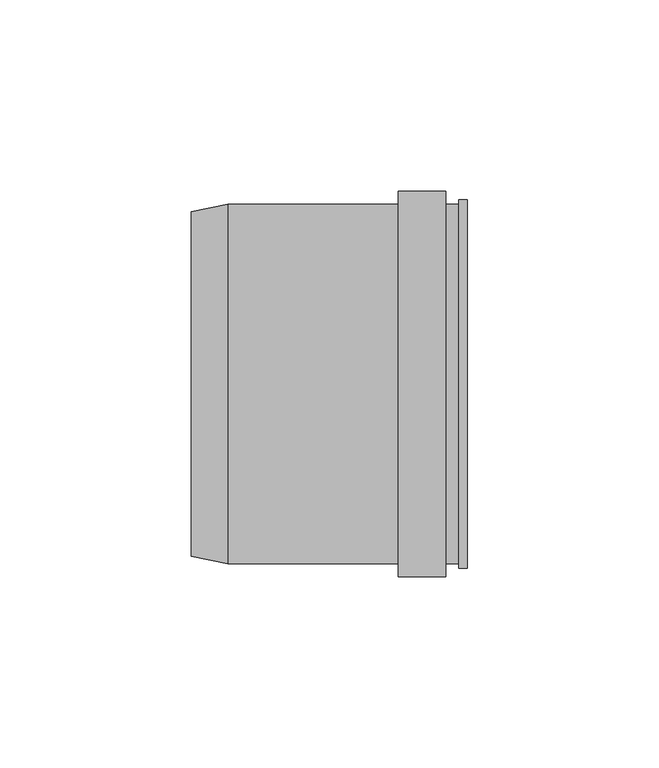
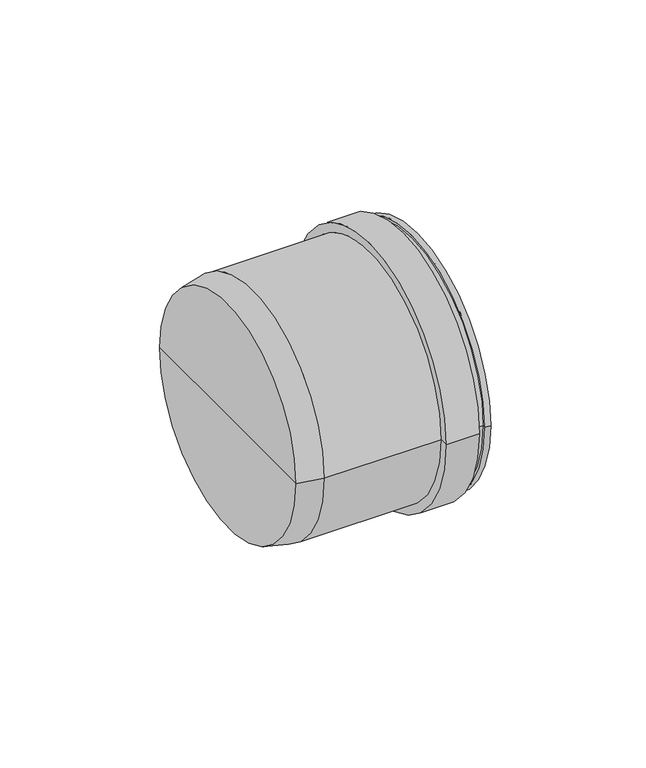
"""IFC4 building model written with IfcOpenShell, lengths in millimetres: pipe fitting geometry, pf_HTM_zatka : pf_HTM_zatka."""

from ifc_helpers import new_model, si_unit, frame, origin, place, context, project, spatial, polyline, circle_curve, source, transform, mapped, element, save
from ifc_brep_helpers import plane_surface, cylinder_surface, revolved_surface, advanced_brep


def pipe_fitting_b7105bf4(model_context):
    return source(origin(), model_context, "Body", "AdvancedBrep", [
        advanced_brep(
        [(-70.0, -45.0, 0.0), (-70.0, 45.0, 0.0), (-60.5, 47.0, 0.0), (-60.5, -47.0, 0.0), (-70.0, 0.0, 0.0), (0.0, -47.0, 0.0), (0.0, 47.0, 0.0), (0.0, 0.0, 0.0), (-3.4, -47.0, 0.0), (-3.4, 47.0, 0.0), (-3.4, -50.4, 0.0), (-3.4, 50.4, 0.0), (-15.9, -50.4, 0.0), (-15.9, 50.4, 0.0), (-15.9, -47.0, 0.0), (-15.9, 47.0, 0.0)],
        [
            (0, 1, circle_curve(frame((-70.0, 0.0, 0.0), z_axis=(1.0, 0.0, 0.0), x_axis=(0.0, 1.0, 0.0)), 45.0)),
            (1, 2),
            (2, 3, circle_curve(frame((-60.5, 0.0, 0.0), z_axis=(-1.0, 0.0, 0.0), x_axis=(0.0, 1.0, 0.0)), 47.0)),
            (3, 0),
            (1, 0, circle_curve(frame((-70.0, 0.0, 0.0), z_axis=(1.0, 0.0, 0.0), x_axis=(0.0, 1.0, 0.0)), 45.0)),
            (3, 2, circle_curve(frame((-60.5, 0.0, 0.0), z_axis=(-1.0, 0.0, 0.0), x_axis=(0.0, 1.0, 0.0)), 47.0)),
            (4, 1),
            (0, 4),
            (5, 6, circle_curve(frame((0.0, 0.0, 0.0), z_axis=(1.0, 0.0, 0.0), x_axis=(0.0, 1.0, 0.0)), 47.0)),
            (6, 7),
            (7, 5),
            (6, 5, circle_curve(frame((0.0, 0.0, 0.0), z_axis=(1.0, 0.0, 0.0), x_axis=(0.0, 1.0, 0.0)), 47.0)),
            (8, 9, circle_curve(frame((-3.4, 0.0, 0.0), z_axis=(1.0, 0.0, 0.0), x_axis=(0.0, 1.0, 0.0)), 47.0)),
            (9, 6),
            (5, 8),
            (9, 8, circle_curve(frame((-3.4, 0.0, 0.0), z_axis=(1.0, 0.0, 0.0), x_axis=(0.0, 1.0, 0.0)), 47.0)),
            (10, 11, circle_curve(frame((-3.4, 0.0, 0.0), z_axis=(1.0, 0.0, 0.0), x_axis=(0.0, 1.0, 0.0)), 50.4)),
            (11, 9),
            (8, 10),
            (11, 10, circle_curve(frame((-3.4, 0.0, 0.0), z_axis=(1.0, 0.0, 0.0), x_axis=(0.0, 1.0, 0.0)), 50.4)),
            (12, 13, circle_curve(frame((-15.9, 0.0, 0.0), z_axis=(1.0, 0.0, 0.0), x_axis=(0.0, 1.0, 0.0)), 50.4)),
            (13, 11),
            (10, 12),
            (13, 12, circle_curve(frame((-15.9, 0.0, 0.0), z_axis=(1.0, 0.0, 0.0), x_axis=(0.0, 1.0, 0.0)), 50.4)),
            (14, 15, circle_curve(frame((-15.9, 0.0, 0.0), z_axis=(1.0, 0.0, 0.0), x_axis=(0.0, 1.0, 0.0)), 47.0)),
            (15, 13),
            (12, 14),
            (15, 14, circle_curve(frame((-15.9, 0.0, 0.0), z_axis=(1.0, 0.0, 0.0), x_axis=(0.0, 1.0, 0.0)), 47.0)),
            (2, 15),
            (14, 3),
        ],
        [
            revolved_surface(polyline([(-60.5, 47.0, 0.0), (-70.0, 45.0, 0.0)]), (-70.0, 0.0, 0.0), (-1.0, 0.0, 0.0)),
            plane_surface(frame((-70.0, 0.0, 0.0), z_axis=(-1.0, 0.0, 0.0), x_axis=(0.0, 1.0, 0.0))),
            plane_surface(frame((0.0, 0.0, 0.0), z_axis=(1.0, 0.0, 0.0), x_axis=(0.0, 1.0, 0.0))),
            cylinder_surface(frame((-70.0, 0.0, 0.0), z_axis=(-1.0, 0.0, 0.0), x_axis=(0.0, 1.0, 0.0)), 47.0),
            plane_surface(frame((-3.4, 0.0, 0.0), z_axis=(1.0, 0.0, 0.0), x_axis=(0.0, 1.0, 0.0))),
            cylinder_surface(frame((-70.0, 0.0, 0.0), z_axis=(-1.0, 0.0, 0.0), x_axis=(0.0, 1.0, 0.0)), 50.4),
            plane_surface(frame((-15.9, 0.0, 0.0), z_axis=(-1.0, 0.0, 0.0), x_axis=(0.0, 1.0, 0.0))),
        ],
        [
            (0, [[1, 2, 3, 4]]),
            (0, [[5, -4, 6, -2]]),
            (1, [[7, -1, 8]]),
            (1, [[-8, -5, -7]]),
            (2, [[9, 10, 11]]),
            (2, [[12, -11, -10]]),
            (3, [[13, 14, -9, 15]]),
            (3, [[16, -15, -12, -14]]),
            (4, [[17, 18, -13, 19]]),
            (4, [[20, -19, -16, -18]]),
            (5, [[21, 22, -17, 23]]),
            (5, [[24, -23, -20, -22]]),
            (6, [[25, 26, -21, 27]]),
            (6, [[28, -27, -24, -26]]),
            (3, [[-3, 29, -25, 30]]),
            (3, [[-6, -30, -28, -29]]),
        ],
    ),
        advanced_brep(
        [(-43.0, 0.0, 0.0), (-43.0, 45.0, 0.0), (-43.0, -45.0, 0.0), (2.2, -48.2, 0.0), (2.2, 48.2, 0.0), (2.2, 0.0, 0.0), (0.0, -48.2, 0.0), (0.0, 48.2, 0.0), (0.0, -46.0, 0.0), (0.0, 46.0, 0.0), (-39.0, -46.0, 0.0), (-39.0, 46.0, 0.0)],
        [
            (0, 1),
            (1, 2, circle_curve(frame((-43.0, 0.0, 0.0), z_axis=(-1.0, 0.0, 0.0), x_axis=(0.0, 1.0, 0.0)), 45.0)),
            (2, 0),
            (2, 1, circle_curve(frame((-43.0, 0.0, 0.0), z_axis=(-1.0, 0.0, 0.0), x_axis=(0.0, 1.0, 0.0)), 45.0)),
            (3, 4, circle_curve(frame((2.2, 0.0, 0.0), z_axis=(1.0, 0.0, 0.0), x_axis=(0.0, 1.0, 0.0)), 48.2)),
            (4, 5),
            (5, 3),
            (4, 3, circle_curve(frame((2.2, 0.0, 0.0), z_axis=(1.0, 0.0, 0.0), x_axis=(0.0, 1.0, 0.0)), 48.2)),
            (6, 7, circle_curve(frame((0.0, 0.0, 0.0), z_axis=(1.0, 0.0, 0.0), x_axis=(0.0, 1.0, 0.0)), 48.2)),
            (7, 4),
            (3, 6),
            (7, 6, circle_curve(frame((0.0, 0.0, 0.0), z_axis=(1.0, 0.0, 0.0), x_axis=(0.0, 1.0, 0.0)), 48.2)),
            (8, 9, circle_curve(frame((0.0, 0.0, 0.0), z_axis=(1.0, 0.0, 0.0), x_axis=(0.0, 1.0, 0.0)), 46.0)),
            (9, 7),
            (6, 8),
            (9, 8, circle_curve(frame((0.0, 0.0, 0.0), z_axis=(1.0, 0.0, 0.0), x_axis=(0.0, 1.0, 0.0)), 46.0)),
            (10, 11, circle_curve(frame((-39.0, 0.0, 0.0), z_axis=(1.0, 0.0, 0.0), x_axis=(0.0, 1.0, 0.0)), 46.0)),
            (11, 9),
            (8, 10),
            (11, 10, circle_curve(frame((-39.0, 0.0, 0.0), z_axis=(1.0, 0.0, 0.0), x_axis=(0.0, 1.0, 0.0)), 46.0)),
            (1, 11),
            (10, 2),
        ],
        [
            plane_surface(frame((-43.0, 0.0, 0.0), z_axis=(-1.0, 0.0, 0.0), x_axis=(0.0, 1.0, 0.0))),
            plane_surface(frame((2.2, 0.0, 0.0), z_axis=(1.0, 0.0, 0.0), x_axis=(0.0, 1.0, 0.0))),
            cylinder_surface(frame((-42.0241529, 0.0, 0.0), z_axis=(-1.0, 0.0, 0.0), x_axis=(0.0, 1.0, 0.0)), 48.2),
            plane_surface(frame((0.0, 0.0, 0.0), z_axis=(-1.0, 0.0, 0.0), x_axis=(0.0, 1.0, 0.0))),
            cylinder_surface(frame((-42.0241529, 0.0, 0.0), z_axis=(-1.0, 0.0, 0.0), x_axis=(0.0, 1.0, 0.0)), 46.0),
            revolved_surface(polyline([(-39.0, 46.0, 0.0), (-43.0, 45.0, 0.0)]), (-42.0241529, 0.0, 0.0), (-1.0, 0.0, 0.0)),
        ],
        [
            (0, [[1, 2, 3]]),
            (0, [[-3, 4, -1]]),
            (1, [[5, 6, 7]]),
            (1, [[8, -7, -6]]),
            (2, [[9, 10, -5, 11]]),
            (2, [[12, -11, -8, -10]]),
            (3, [[13, 14, -9, 15]]),
            (3, [[16, -15, -12, -14]]),
            (4, [[17, 18, -13, 19]]),
            (4, [[20, -19, -16, -18]]),
            (5, [[-2, 21, -17, 22]]),
            (5, [[-4, -22, -20, -21]]),
        ],
    ),
    ])


if __name__ == "__main__":
    model = new_model("IFC4")
    model_context = context("Model", 3, world=origin())
    ifc_project = project(units=[si_unit("LENGTHUNIT", "METRE", prefix="MILLI")], contexts=[model_context])
    site = spatial("IfcSite", under=ifc_project)
    building = spatial("IfcBuilding", under=site)
    placement = place(None, origin())
    pipe_fitting_shape = pipe_fitting_b7105bf4(model_context)
    element("IfcPipeFitting", 1, ObjectType="pf_HTM_zatka : pf_HTM_zatka", at=placement, inside=building, context=model_context, shape_type="MappedRepresentation", body=[
        mapped(pipe_fitting_shape, transform((0.0, 0.0, 0.0), x_axis=(1.0, 0.0, 0.0), y_axis=(0.0, 1.0, 0.0), z_axis=(0.0, 0.0, 1.0))),
    ])
    save(model, "model.ifc")
